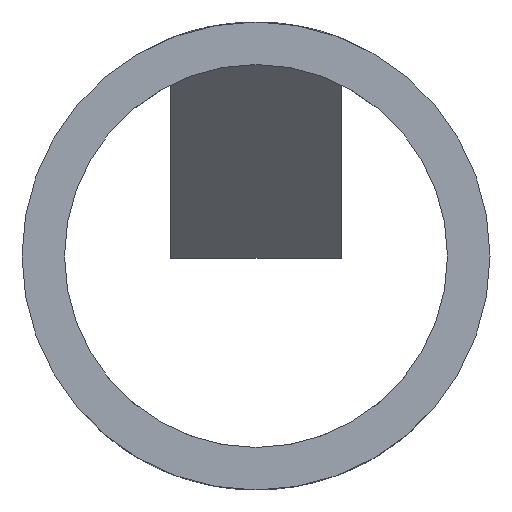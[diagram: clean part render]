
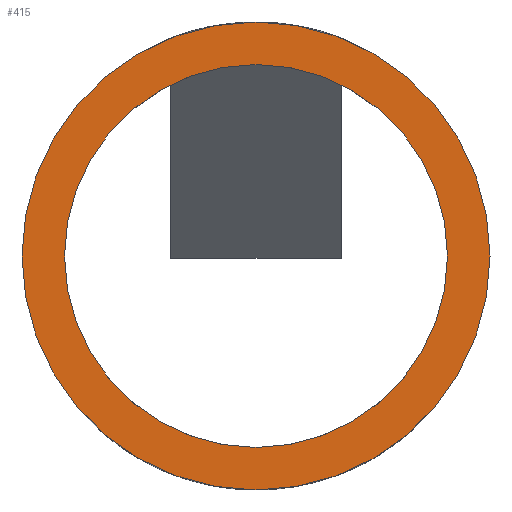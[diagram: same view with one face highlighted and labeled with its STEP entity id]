
A CAD part, front view. The second image highlights one B-rep face of the part: STEP entity #415.
In plain terms, the highlighted planar face has unit normal (0, -1, 0).
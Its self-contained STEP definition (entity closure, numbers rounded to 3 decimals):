
#40 = CIRCLE ( 'NONE', #136, 5.5 ) ;
#44 = CIRCLE ( 'NONE', #157, 5.5 ) ;
#51 = CIRCLE ( 'NONE', #158, 4.5 ) ;
#53 = CIRCLE ( 'NONE', #167, 4.5 ) ;
#136 = AXIS2_PLACEMENT_3D ( 'NONE', #376, #373, #372 ) ;
#153 = AXIS2_PLACEMENT_3D ( 'NONE', #733, #727, #722 ) ;
#157 = AXIS2_PLACEMENT_3D ( 'NONE', #391, #378, #377 ) ;
#158 = AXIS2_PLACEMENT_3D ( 'NONE', #395, #387, #386 ) ;
#167 = AXIS2_PLACEMENT_3D ( 'NONE', #392, #390, #389 ) ;
#176 = EDGE_CURVE ( 'NONE', #594, #593, #53, .T. ) ;
#177 = EDGE_CURVE ( 'NONE', #593, #594, #51, .T. ) ;
#181 = EDGE_CURVE ( 'NONE', #609, #614, #44, .T. ) ;
#183 = EDGE_CURVE ( 'NONE', #614, #609, #40, .T. ) ;
#198 = FACE_OUTER_BOUND ( 'NONE', #445, .T. ) ;
#207 = FACE_BOUND ( 'NONE', #431, .T. ) ;
#372 = DIRECTION ( 'NONE',  ( -1., 0., 0. ) ) ;
#373 = DIRECTION ( 'NONE',  ( 0., -1., 0. ) ) ;
#376 = CARTESIAN_POINT ( 'NONE',  ( 0., 0., 0. ) ) ;
#377 = DIRECTION ( 'NONE',  ( -1., 0., 0. ) ) ;
#378 = DIRECTION ( 'NONE',  ( 0., -1., 0. ) ) ;
#386 = DIRECTION ( 'NONE',  ( -1., 0., 0. ) ) ;
#387 = DIRECTION ( 'NONE',  ( 0., -1., 0. ) ) ;
#389 = DIRECTION ( 'NONE',  ( -1., 0., 0. ) ) ;
#390 = DIRECTION ( 'NONE',  ( 0., -1., 0. ) ) ;
#391 = CARTESIAN_POINT ( 'NONE',  ( 0., 0., 0. ) ) ;
#392 = CARTESIAN_POINT ( 'NONE',  ( 0., 0., 0. ) ) ;
#395 = CARTESIAN_POINT ( 'NONE',  ( 0., 0., 0. ) ) ;
#415 = ADVANCED_FACE ( 'NONE', ( #198, #207 ), #739, .T. ) ;
#431 = EDGE_LOOP ( 'NONE', ( #828, #829 ) ) ;
#445 = EDGE_LOOP ( 'NONE', ( #823, #826 ) ) ;
#593 = VERTEX_POINT ( 'NONE', #707 ) ;
#594 = VERTEX_POINT ( 'NONE', #697 ) ;
#609 = VERTEX_POINT ( 'NONE', #685 ) ;
#614 = VERTEX_POINT ( 'NONE', #681 ) ;
#681 = CARTESIAN_POINT ( 'NONE',  ( 5.5, 0., 0. ) ) ;
#685 = CARTESIAN_POINT ( 'NONE',  ( -5.5, 0., 0. ) ) ;
#697 = CARTESIAN_POINT ( 'NONE',  ( 4.5, 0., 0. ) ) ;
#707 = CARTESIAN_POINT ( 'NONE',  ( -4.5, 0., 0. ) ) ;
#722 = DIRECTION ( 'NONE',  ( -1., 0., 0. ) ) ;
#727 = DIRECTION ( 'NONE',  ( 0., -1., 0. ) ) ;
#733 = CARTESIAN_POINT ( 'NONE',  ( 0., 0., 0. ) ) ;
#739 = PLANE ( 'NONE',  #153 ) ;
#823 = ORIENTED_EDGE ( 'NONE', *, *, #183, .T. ) ;
#826 = ORIENTED_EDGE ( 'NONE', *, *, #181, .T. ) ;
#828 = ORIENTED_EDGE ( 'NONE', *, *, #176, .F. ) ;
#829 = ORIENTED_EDGE ( 'NONE', *, *, #177, .F. ) ;
